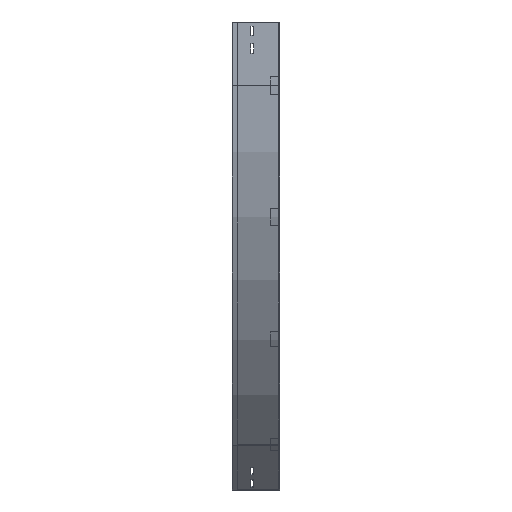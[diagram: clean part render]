
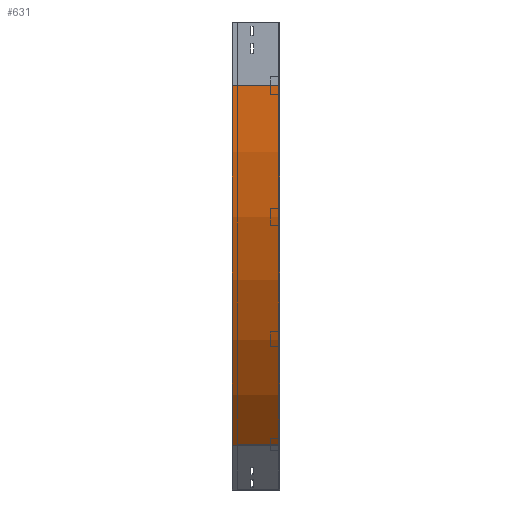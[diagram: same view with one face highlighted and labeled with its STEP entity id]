
A CAD part, left-side view. The second image highlights one B-rep face of the part: STEP entity #631.
In plain terms, the highlighted cylindrical face has radius 1200 mm (diameter 2400 mm), a partial arc.
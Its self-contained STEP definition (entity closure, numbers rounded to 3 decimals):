
#38 = EDGE_CURVE ( 'NONE', #2623, #2123, #41, .T. ) ;
#41 = LINE ( 'NONE', #369, #3550 ) ;
#139 = DIRECTION ( 'NONE',  ( 0., -1., 0. ) ) ;
#313 = DIRECTION ( 'NONE',  ( 0., -1., 0. ) ) ;
#330 = DIRECTION ( 'NONE',  ( -1., 0., 0. ) ) ;
#369 = CARTESIAN_POINT ( 'NONE',  ( 0., 0., -150. ) ) ;
#477 = FACE_OUTER_BOUND ( 'NONE', #3754, .T. ) ;
#631 = ADVANCED_FACE ( 'NONE', ( #477 ), #2517, .T. ) ;
#724 = CARTESIAN_POINT ( 'NONE',  ( 351.472, 0., -998.528 ) ) ;
#769 = CARTESIAN_POINT ( 'NONE',  ( 1200., 0., -150. ) ) ;
#779 = VECTOR ( 'NONE', #139, 1000. ) ;
#891 = DIRECTION ( 'NONE',  ( -1., 0., 0. ) ) ;
#912 = CARTESIAN_POINT ( 'NONE',  ( 1200., 0., -150. ) ) ;
#938 = VERTEX_POINT ( 'NONE', #2664 ) ;
#989 = LINE ( 'NONE', #724, #779 ) ;
#1148 = ORIENTED_EDGE ( 'NONE', *, *, #38, .F. ) ;
#1320 = EDGE_CURVE ( 'NONE', #2123, #2279, #1623, .T. ) ;
#1428 = AXIS2_PLACEMENT_3D ( 'NONE', #2343, #1793, #330 ) ;
#1623 = CIRCLE ( 'NONE', #3819, 1200. ) ;
#1653 = ORIENTED_EDGE ( 'NONE', *, *, #3411, .T. ) ;
#1793 = DIRECTION ( 'NONE',  ( 0., -1., 0. ) ) ;
#1825 = CARTESIAN_POINT ( 'NONE',  ( 351.472, 0., -998.528 ) ) ;
#2123 = VERTEX_POINT ( 'NONE', #2646 ) ;
#2136 = CARTESIAN_POINT ( 'NONE',  ( 0., 112.5, -150. ) ) ;
#2159 = DIRECTION ( 'NONE',  ( 0., 0., -1. ) ) ;
#2279 = VERTEX_POINT ( 'NONE', #1825 ) ;
#2343 = CARTESIAN_POINT ( 'NONE',  ( 1200., 112.5, -150. ) ) ;
#2517 = CYLINDRICAL_SURFACE ( 'NONE', #2820, 1200. ) ;
#2623 = VERTEX_POINT ( 'NONE', #2136 ) ;
#2646 = CARTESIAN_POINT ( 'NONE',  ( 0., 0., -150. ) ) ;
#2664 = CARTESIAN_POINT ( 'NONE',  ( 351.472, 112.5, -998.528 ) ) ;
#2820 = AXIS2_PLACEMENT_3D ( 'NONE', #769, #3716, #2159 ) ;
#2991 = ORIENTED_EDGE ( 'NONE', *, *, #3125, .T. ) ;
#3026 = CIRCLE ( 'NONE', #1428, 1200. ) ;
#3125 = EDGE_CURVE ( 'NONE', #938, #2279, #989, .T. ) ;
#3411 = EDGE_CURVE ( 'NONE', #2623, #938, #3026, .T. ) ;
#3550 = VECTOR ( 'NONE', #3668, 1000. ) ;
#3668 = DIRECTION ( 'NONE',  ( 0., -1., 0. ) ) ;
#3716 = DIRECTION ( 'NONE',  ( 0., -1., 0. ) ) ;
#3754 = EDGE_LOOP ( 'NONE', ( #3853, #1148, #1653, #2991 ) ) ;
#3819 = AXIS2_PLACEMENT_3D ( 'NONE', #912, #313, #891 ) ;
#3853 = ORIENTED_EDGE ( 'NONE', *, *, #1320, .F. ) ;
